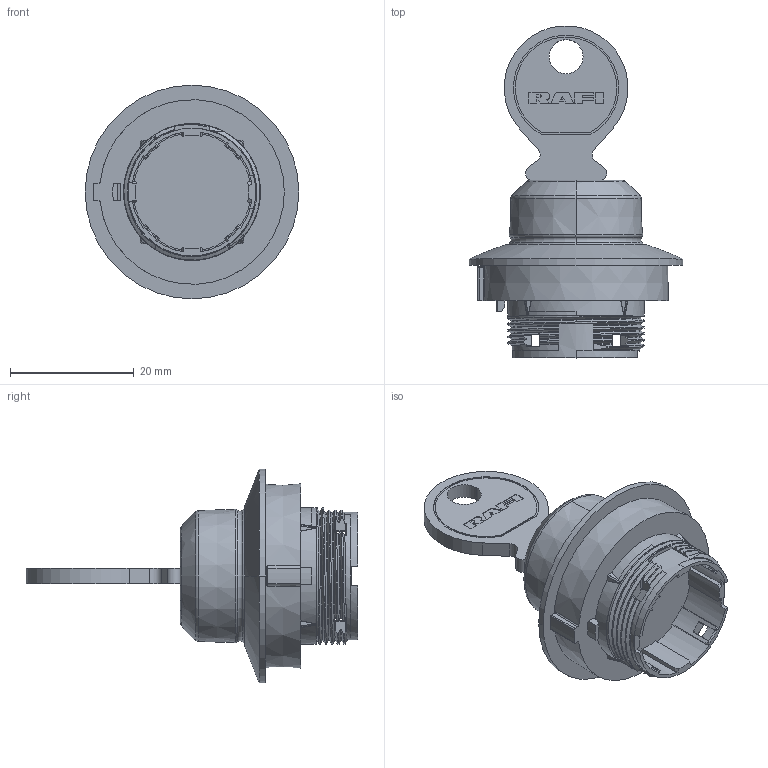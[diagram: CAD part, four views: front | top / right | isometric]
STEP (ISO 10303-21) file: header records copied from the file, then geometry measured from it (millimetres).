
FILE_DESCRIPTION((''),'2;1');
FILE_NAME('130295102_SCHRUMPF_01','2024-02-19T11:32:56',('H0101330'),(''),'CREO PARAMETRIC BY PTC INC, 2018500','CREO PARAMETRIC BY PTC INC, 2018500','');
FILE_SCHEMA(('AUTOMOTIVE_DESIGN { 1 0 10303 214 1 1 1 1 }'));
Length unit declared in the file: millimetre
Products named in the file (1): 130295102_SCHRUMPF_01
Bounding box: 34.5 x 53.56 x 34.5 mm (x, y, z)
Volume: 11813.4 mm3; surface area: 5503.2 mm2
Topology: 1 solids, 1 shells, 653 faces, 1822 edges, 1193 vertices
Faces by surface type: plane 453, cylinder 92, bspline 73, torus 18, cone 15, sphere 2
Entity records: 32386 total; most frequent: CARTESIAN_POINT 11534, ORIENTED_EDGE 3644, DIRECTION 2906, EDGE_CURVE 1822, VECTOR 1300, LINE 1300, VERTEX_POINT 1193, AXIS2_PLACEMENT_3D 803
